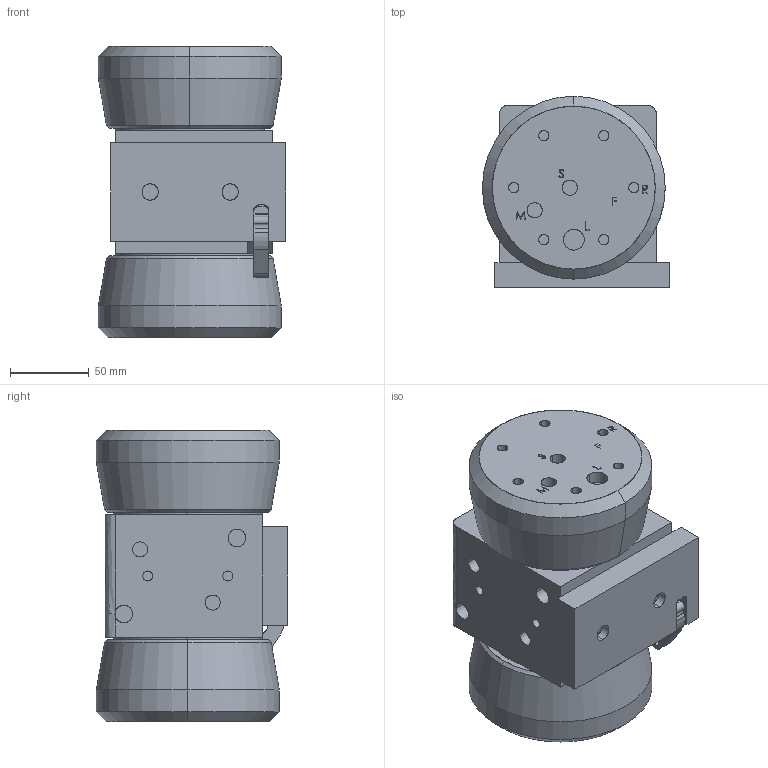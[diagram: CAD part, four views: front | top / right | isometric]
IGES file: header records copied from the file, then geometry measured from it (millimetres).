
Start section: SolidWorks IGES file using analytic representation for surfaces
Global section: file name: S:\Product Visuals\FILES FOR PUBLICATION\SOLID MODELS FOR PUBLICATION\psh030\psh030-no-shuttle\psh030-no-shuttle.IGS; native system: SolidWorks 2012; preprocessor: SolidWorks 2012; author: karen.bodily; date: 121121.143455; units: inch
Bounding box: 118.85 x 121.36 x 184.96 mm (x, y, z)
Surface area: 119153.5 mm2 (no closed solid volume)
Topology: 0 solids, 0 shells, 710 faces, 9724 edges, 9724 vertices
Faces by surface type: bspline 579, revolution 131
